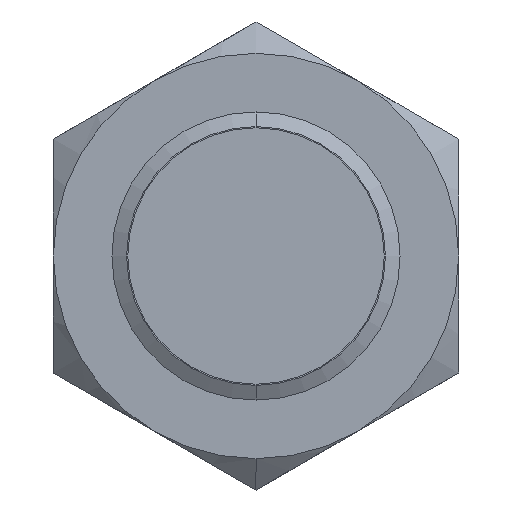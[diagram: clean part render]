
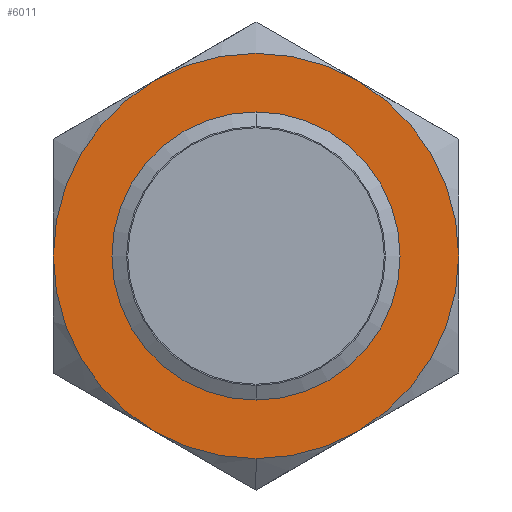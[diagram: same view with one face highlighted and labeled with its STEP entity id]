
A CAD part, left-side view. The second image highlights one B-rep face of the part: STEP entity #6011.
In plain terms, the highlighted planar face has unit normal (-1, 0, 0).
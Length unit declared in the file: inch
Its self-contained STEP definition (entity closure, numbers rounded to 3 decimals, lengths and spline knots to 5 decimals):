
#89 = CIRCLE ( 'NONE', #107, 0.231 ) ;
#104 = CIRCLE ( 'NONE', #105, 0.332 ) ;
#105 = AXIS2_PLACEMENT_3D ( 'NONE', #123, #124, #125 ) ;
#107 = AXIS2_PLACEMENT_3D ( 'NONE', #108, #109, #110 ) ;
#108 = CARTESIAN_POINT ( 'NONE',  ( 0.70974, 0., 0. ) ) ;
#109 = DIRECTION ( 'NONE',  ( -1., 0., 0. ) ) ;
#110 = DIRECTION ( 'NONE',  ( 0., 0., -1. ) ) ;
#123 = CARTESIAN_POINT ( 'NONE',  ( 0.70974, 0., 0. ) ) ;
#124 = DIRECTION ( 'NONE',  ( 1., 0., 0. ) ) ;
#125 = DIRECTION ( 'NONE',  ( 0., 0., -1. ) ) ;
#777 = EDGE_CURVE ( 'NONE', #13038, #9452, #10007, .T. ) ;
#1070 = CARTESIAN_POINT ( 'NONE',  ( 0.70974, 0.166, 0.28752 ) ) ;
#1613 = CARTESIAN_POINT ( 'NONE',  ( 0.70974, 0., -0.332 ) ) ;
#1842 = CARTESIAN_POINT ( 'NONE',  ( 0.70974, -0.166, -0.28752 ) ) ;
#2049 = CIRCLE ( 'NONE', #2050, 0.332 ) ;
#2050 = AXIS2_PLACEMENT_3D ( 'NONE', #2051, #2052, #2053 ) ;
#2051 = CARTESIAN_POINT ( 'NONE',  ( 0.70974, 0., 0. ) ) ;
#2052 = DIRECTION ( 'NONE',  ( 1., 0., 0. ) ) ;
#2053 = DIRECTION ( 'NONE',  ( 0., 0., -1. ) ) ;
#2294 = CARTESIAN_POINT ( 'NONE',  ( 0.70974, 0., 0.231 ) ) ;
#2548 = CIRCLE ( 'NONE', #2549, 0.332 ) ;
#2549 = AXIS2_PLACEMENT_3D ( 'NONE', #2550, #2551, #2552 ) ;
#2550 = CARTESIAN_POINT ( 'NONE',  ( 0.70974, 0., 0. ) ) ;
#2551 = DIRECTION ( 'NONE',  ( 1., 0., 0. ) ) ;
#2552 = DIRECTION ( 'NONE',  ( 0., 0., -1. ) ) ;
#2766 = VERTEX_POINT ( 'NONE', #10939 ) ;
#2774 = CARTESIAN_POINT ( 'NONE',  ( 0.70974, 0., -0.231 ) ) ;
#2915 = CARTESIAN_POINT ( 'NONE',  ( 0.70974, 0.166, -0.28752 ) ) ;
#2942 = CIRCLE ( 'NONE', #2943, 0.231 ) ;
#2943 = AXIS2_PLACEMENT_3D ( 'NONE', #2944, #2945, #2946 ) ;
#2944 = CARTESIAN_POINT ( 'NONE',  ( 0.70974, 0., 0. ) ) ;
#2945 = DIRECTION ( 'NONE',  ( -1., 0., 0. ) ) ;
#2946 = DIRECTION ( 'NONE',  ( 0., 0., -1. ) ) ;
#3013 = EDGE_CURVE ( 'NONE', #12015, #13038, #11171, .T. ) ;
#3408 = ORIENTED_EDGE ( 'NONE', *, *, #9226, .F. ) ;
#3784 = ORIENTED_EDGE ( 'NONE', *, *, #12488, .F. ) ;
#3878 = CIRCLE ( 'NONE', #3879, 0.332 ) ;
#3879 = AXIS2_PLACEMENT_3D ( 'NONE', #3880, #3881, #3882 ) ;
#3880 = CARTESIAN_POINT ( 'NONE',  ( 0.70974, 0., 0. ) ) ;
#3881 = DIRECTION ( 'NONE',  ( 1., 0., 0. ) ) ;
#3882 = DIRECTION ( 'NONE',  ( 0., 0., -1. ) ) ;
#4337 = EDGE_LOOP ( 'NONE', ( #3784, #3408, #8783, #8671, #8549, #8400, #8294 ) ) ;
#4607 = ORIENTED_EDGE ( 'NONE', *, *, #7558, .F. ) ;
#5185 = ORIENTED_EDGE ( 'NONE', *, *, #8265, .F. ) ;
#5258 = CIRCLE ( 'NONE', #5259, 0.332 ) ;
#5259 = AXIS2_PLACEMENT_3D ( 'NONE', #5260, #5261, #5262 ) ;
#5260 = CARTESIAN_POINT ( 'NONE',  ( 0.70974, 0., 0. ) ) ;
#5261 = DIRECTION ( 'NONE',  ( 1., 0., 0. ) ) ;
#5262 = DIRECTION ( 'NONE',  ( 0., 0., -1. ) ) ;
#5575 = CARTESIAN_POINT ( 'NONE',  ( 0.70974, 0.332, 0. ) ) ;
#5733 = EDGE_LOOP ( 'NONE', ( #5185, #4607 ) ) ;
#6011 = ADVANCED_FACE ( 'NONE', ( #12313, #12314 ), #12315, .F. ) ;
#6560 = VERTEX_POINT ( 'NONE', #12792 ) ;
#7558 = EDGE_CURVE ( 'NONE', #8137, #8202, #89, .T. ) ;
#7837 = VERTEX_POINT ( 'NONE', #1070 ) ;
#8137 = VERTEX_POINT ( 'NONE', #2294 ) ;
#8174 = EDGE_CURVE ( 'NONE', #7837, #2766, #2548, .T. ) ;
#8202 = VERTEX_POINT ( 'NONE', #2774 ) ;
#8265 = EDGE_CURVE ( 'NONE', #8202, #8137, #2942, .T. ) ;
#8294 = ORIENTED_EDGE ( 'NONE', *, *, #3013, .F. ) ;
#8400 = ORIENTED_EDGE ( 'NONE', *, *, #777, .F. ) ;
#8549 = ORIENTED_EDGE ( 'NONE', *, *, #8747, .F. ) ;
#8671 = ORIENTED_EDGE ( 'NONE', *, *, #8174, .F. ) ;
#8747 = EDGE_CURVE ( 'NONE', #9452, #7837, #3878, .T. ) ;
#8783 = ORIENTED_EDGE ( 'NONE', *, *, #10425, .F. ) ;
#9226 = EDGE_CURVE ( 'NONE', #6560, #12251, #5258, .T. ) ;
#9452 = VERTEX_POINT ( 'NONE', #5575 ) ;
#10007 = CIRCLE ( 'NONE', #10008, 0.332 ) ;
#10008 = AXIS2_PLACEMENT_3D ( 'NONE', #10009, #10010, #10011 ) ;
#10009 = CARTESIAN_POINT ( 'NONE',  ( 0.70974, 0., 0. ) ) ;
#10010 = DIRECTION ( 'NONE',  ( 1., 0., 0. ) ) ;
#10011 = DIRECTION ( 'NONE',  ( 0., 0., -1. ) ) ;
#10425 = EDGE_CURVE ( 'NONE', #2766, #6560, #104, .T. ) ;
#10939 = CARTESIAN_POINT ( 'NONE',  ( 0.70974, -0.166, 0.28752 ) ) ;
#11171 = CIRCLE ( 'NONE', #11172, 0.332 ) ;
#11172 = AXIS2_PLACEMENT_3D ( 'NONE', #11173, #11174, #11175 ) ;
#11173 = CARTESIAN_POINT ( 'NONE',  ( 0.70974, 0., 0. ) ) ;
#11174 = DIRECTION ( 'NONE',  ( 1., 0., 0. ) ) ;
#11175 = DIRECTION ( 'NONE',  ( 0., 0., -1. ) ) ;
#12015 = VERTEX_POINT ( 'NONE', #1613 ) ;
#12251 = VERTEX_POINT ( 'NONE', #1842 ) ;
#12313 = FACE_BOUND ( 'NONE', #5733, .T. ) ;
#12314 = FACE_OUTER_BOUND ( 'NONE', #4337, .T. ) ;
#12315 = PLANE ( 'NONE',  #12316 ) ;
#12316 = AXIS2_PLACEMENT_3D ( 'NONE', #12317, #12318, #12319 ) ;
#12317 = CARTESIAN_POINT ( 'NONE',  ( 0.70974, 0., 0. ) ) ;
#12318 = DIRECTION ( 'NONE',  ( 1., 0., 0. ) ) ;
#12319 = DIRECTION ( 'NONE',  ( 0., 0., -1. ) ) ;
#12488 = EDGE_CURVE ( 'NONE', #12251, #12015, #2049, .T. ) ;
#12792 = CARTESIAN_POINT ( 'NONE',  ( 0.70974, -0.332, 0. ) ) ;
#13038 = VERTEX_POINT ( 'NONE', #2915 ) ;
